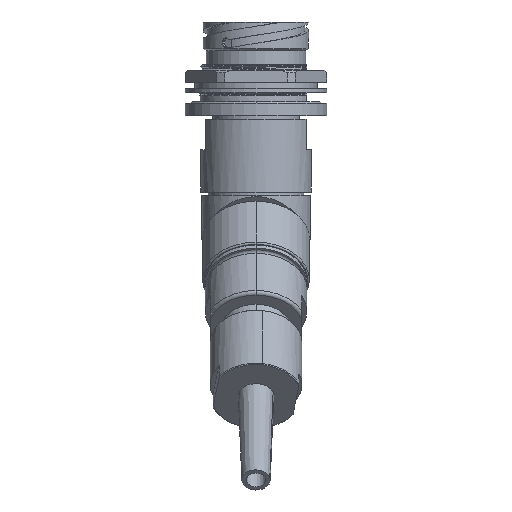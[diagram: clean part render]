
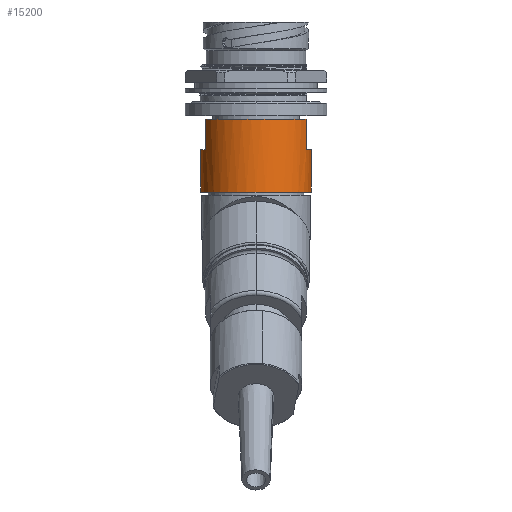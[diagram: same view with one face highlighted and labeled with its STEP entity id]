
A CAD part, front view. The second image highlights one B-rep face of the part: STEP entity #15200.
In plain terms, the highlighted cylindrical face has radius 17.272 mm (diameter 34.544 mm), a partial arc.
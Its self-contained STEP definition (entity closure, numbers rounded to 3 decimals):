
#91 = VERTEX_POINT ( 'NONE', #15462 ) ;
#185 = CARTESIAN_POINT ( 'NONE',  ( 0., 0., -30.328 ) ) ;
#383 = DIRECTION ( 'NONE',  ( 1., 0., 0. ) ) ;
#1096 = EDGE_CURVE ( 'NONE', #5493, #16207, #15592, .T. ) ;
#1292 = DIRECTION ( 'NONE',  ( 0., 0., -1. ) ) ;
#1427 = ORIENTED_EDGE ( 'NONE', *, *, #6725, .F. ) ;
#1588 = ORIENTED_EDGE ( 'NONE', *, *, #15008, .F. ) ;
#1626 = AXIS2_PLACEMENT_3D ( 'NONE', #185, #1805, #13343 ) ;
#1805 = DIRECTION ( 'NONE',  ( 0., 0., -1. ) ) ;
#2346 = ORIENTED_EDGE ( 'NONE', *, *, #18368, .T. ) ;
#2464 = CARTESIAN_POINT ( 'NONE',  ( -15.621, -7.369, -30.328 ) ) ;
#2874 = DIRECTION ( 'NONE',  ( 0., 0., 1. ) ) ;
#3996 = EDGE_CURVE ( 'NONE', #16754, #11816, #20369, .T. ) ;
#4184 = CARTESIAN_POINT ( 'NONE',  ( -17.272, 0., -30.328 ) ) ;
#4654 = LINE ( 'NONE', #8099, #20867 ) ;
#5005 = AXIS2_PLACEMENT_3D ( 'NONE', #7822, #2874, #15690 ) ;
#5493 = VERTEX_POINT ( 'NONE', #17835 ) ;
#5582 = DIRECTION ( 'NONE',  ( 1., 0., 0. ) ) ;
#5601 = DIRECTION ( 'NONE',  ( 0., 0., 1. ) ) ;
#5802 = CARTESIAN_POINT ( 'NONE',  ( 15.621, -7.369, -39.853 ) ) ;
#6462 = VECTOR ( 'NONE', #5601, 1000. ) ;
#6725 = EDGE_CURVE ( 'NONE', #91, #14239, #4654, .T. ) ;
#6939 = ORIENTED_EDGE ( 'NONE', *, *, #3996, .F. ) ;
#7706 = DIRECTION ( 'NONE',  ( 0., 0., -1. ) ) ;
#7758 = VECTOR ( 'NONE', #10644, 1000. ) ;
#7822 = CARTESIAN_POINT ( 'NONE',  ( 0., 0., -39.853 ) ) ;
#8099 = CARTESIAN_POINT ( 'NONE',  ( 17.272, 0., -30.328 ) ) ;
#8310 = DIRECTION ( 'NONE',  ( 0., 0., -1. ) ) ;
#8568 = DIRECTION ( 'NONE',  ( 0., 0., -1. ) ) ;
#8815 = DIRECTION ( 'NONE',  ( 0., 0., 1. ) ) ;
#9321 = CYLINDRICAL_SURFACE ( 'NONE', #11165, 17.272 ) ;
#9465 = LINE ( 'NONE', #11093, #12991 ) ;
#9891 = AXIS2_PLACEMENT_3D ( 'NONE', #18173, #8568, #383 ) ;
#10644 = DIRECTION ( 'NONE',  ( 0., 0., -1. ) ) ;
#11093 = CARTESIAN_POINT ( 'NONE',  ( 15.621, -7.369, -30.328 ) ) ;
#11165 = AXIS2_PLACEMENT_3D ( 'NONE', #19033, #7706, #14406 ) ;
#11560 = CIRCLE ( 'NONE', #21211, 17.272 ) ;
#11764 = EDGE_CURVE ( 'NONE', #5493, #16754, #11560, .T. ) ;
#11816 = VERTEX_POINT ( 'NONE', #2464 ) ;
#11983 = EDGE_LOOP ( 'NONE', ( #14143, #13738, #18146, #1427, #1588, #12383, #2346, #6939 ) ) ;
#12383 = ORIENTED_EDGE ( 'NONE', *, *, #20532, .F. ) ;
#12439 = CARTESIAN_POINT ( 'NONE',  ( 17.272, 0., -53.01 ) ) ;
#12991 = VECTOR ( 'NONE', #1292, 1000. ) ;
#13343 = DIRECTION ( 'NONE',  ( 1., 0., 0. ) ) ;
#13695 = CIRCLE ( 'NONE', #9891, 17.272 ) ;
#13738 = ORIENTED_EDGE ( 'NONE', *, *, #1096, .T. ) ;
#13786 = CARTESIAN_POINT ( 'NONE',  ( 0., 0., -39.853 ) ) ;
#13800 = CARTESIAN_POINT ( 'NONE',  ( -15.621, -7.369, -30.328 ) ) ;
#14143 = ORIENTED_EDGE ( 'NONE', *, *, #11764, .F. ) ;
#14239 = VERTEX_POINT ( 'NONE', #12439 ) ;
#14288 = FACE_OUTER_BOUND ( 'NONE', #11983, .T. ) ;
#14406 = DIRECTION ( 'NONE',  ( 1., 0., 0. ) ) ;
#14715 = CARTESIAN_POINT ( 'NONE',  ( -15.621, -7.369, -39.853 ) ) ;
#15008 = EDGE_CURVE ( 'NONE', #18580, #91, #16030, .T. ) ;
#15200 = ADVANCED_FACE ( 'NONE', ( #14288 ), #9321, .T. ) ;
#15462 = CARTESIAN_POINT ( 'NONE',  ( 17.272, 0., -39.853 ) ) ;
#15526 = VERTEX_POINT ( 'NONE', #21203 ) ;
#15592 = LINE ( 'NONE', #4184, #7758 ) ;
#15690 = DIRECTION ( 'NONE',  ( 1., 0., 0. ) ) ;
#16030 = CIRCLE ( 'NONE', #5005, 17.272 ) ;
#16207 = VERTEX_POINT ( 'NONE', #16658 ) ;
#16658 = CARTESIAN_POINT ( 'NONE',  ( -17.272, 0., -53.01 ) ) ;
#16754 = VERTEX_POINT ( 'NONE', #14715 ) ;
#16774 = CIRCLE ( 'NONE', #1626, 17.272 ) ;
#17835 = CARTESIAN_POINT ( 'NONE',  ( -17.272, 0., -39.853 ) ) ;
#18146 = ORIENTED_EDGE ( 'NONE', *, *, #19529, .F. ) ;
#18173 = CARTESIAN_POINT ( 'NONE',  ( 0., 0., -53.01 ) ) ;
#18368 = EDGE_CURVE ( 'NONE', #15526, #11816, #16774, .T. ) ;
#18580 = VERTEX_POINT ( 'NONE', #5802 ) ;
#19033 = CARTESIAN_POINT ( 'NONE',  ( 0., 0., -30.328 ) ) ;
#19529 = EDGE_CURVE ( 'NONE', #14239, #16207, #13695, .T. ) ;
#20369 = LINE ( 'NONE', #13800, #6462 ) ;
#20532 = EDGE_CURVE ( 'NONE', #15526, #18580, #9465, .T. ) ;
#20867 = VECTOR ( 'NONE', #8310, 1000. ) ;
#21203 = CARTESIAN_POINT ( 'NONE',  ( 15.621, -7.369, -30.328 ) ) ;
#21211 = AXIS2_PLACEMENT_3D ( 'NONE', #13786, #8815, #5582 ) ;
